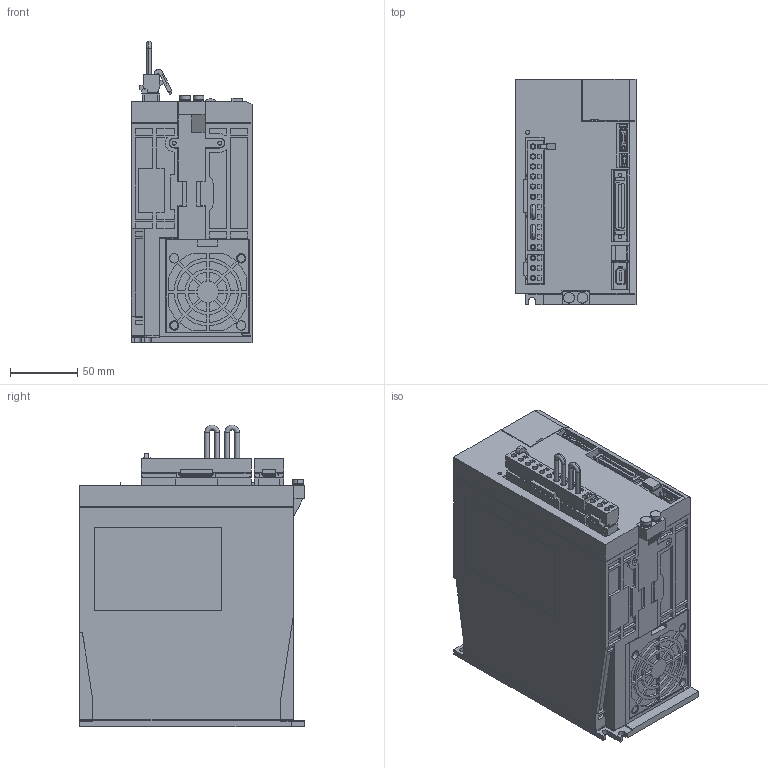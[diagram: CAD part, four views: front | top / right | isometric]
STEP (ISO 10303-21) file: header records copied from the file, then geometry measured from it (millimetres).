
FILE_DESCRIPTION (( 'STEP AP203' ), '1' );
FILE_NAME ('sgd7s_120a00a.STEP', '2014-03-06T04:28:09', ( '匠エンジニアリング山之内' ), ( 'TAKUMI-Engniaring' ), 'SwSTEP 2.0', 'SolidWorks 2006303', '' );
FILE_SCHEMA (( 'CONFIG_CONTROL_DESIGN' ));
Products named in the file (10): sgd7s_120a00a_pin; sgd7s_120a00a; sgd7s_120a00a_base; sgd7s_120a00a_connector; sgd7s_120a00a_connector_2; sgd7s_120a00a_cable; sgd7s_120a00a_connector_1; sgd7s_120a00a_cover; sgd7s_120a00a_cover2; sgd7s_120a00a_connector_3
Assembly tree (11 placements, depth 3):
  sgd7s_120a00a
    sgd7s_120a00a_cover2  x2
    sgd7s_120a00a_connector_1
    sgd7s_120a00a_connector
      sgd7s_120a00a_cable  x2
      sgd7s_120a00a_connector_2
      sgd7s_120a00a_pin
    sgd7s_120a00a_cover
    sgd7s_120a00a_connector_3
    sgd7s_120a00a_base
Bounding box: 90.5 x 168 x 225 mm (x, y, z)
Volume: 2553439.7 mm3; surface area: 172413.4 mm2
Topology: 10 solids, 10 shells, 1947 faces, 4965 edges, 3280 vertices
Faces by surface type: plane 1637, cylinder 301, torus 4, cone 4, sphere 1
Entity records: 58207 total; most frequent: CARTESIAN_POINT 10040, ORIENTED_EDGE 9770, DIRECTION 9337, EDGE_CURVE 4885, VECTOR 4287, LINE 4287, VERTEX_POINT 3228, AXIS2_PLACEMENT_3D 2525
